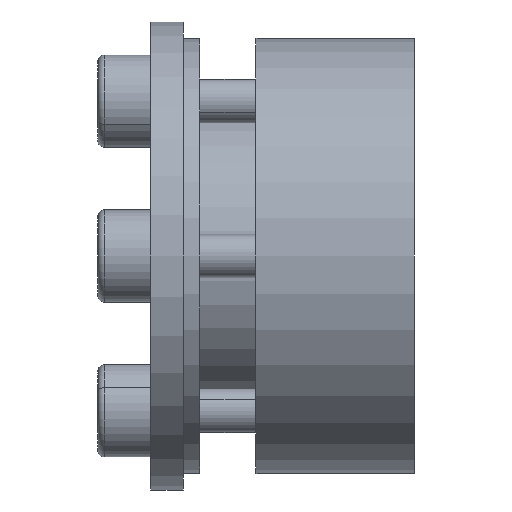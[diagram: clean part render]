
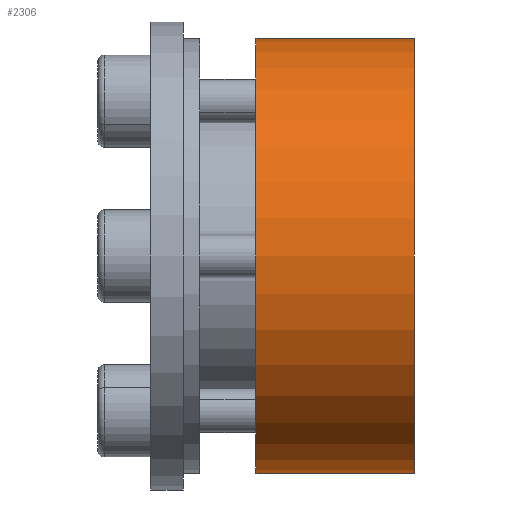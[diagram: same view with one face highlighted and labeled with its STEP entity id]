
A CAD part, front view. The second image highlights one B-rep face of the part: STEP entity #2306.
In plain terms, the highlighted cylindrical face has radius 16.5 mm (diameter 33 mm), a partial arc.
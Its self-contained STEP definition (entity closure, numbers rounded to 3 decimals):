
#21 = CARTESIAN_POINT ( 'NONE',  ( 20., 0., 0. ) ) ;
#101 = DIRECTION ( 'NONE',  ( 0., 0., 1. ) ) ;
#102 = DIRECTION ( 'NONE',  ( -1., 0., 0. ) ) ;
#103 = AXIS2_PLACEMENT_3D ( 'NONE', #21, #102, #101 ) ;
#104 = CIRCLE ( 'NONE', #103, 16.5 ) ;
#1893 = DIRECTION ( 'NONE',  ( 0., 0., 1. ) ) ;
#1894 = DIRECTION ( 'NONE',  ( -1., 0., 0. ) ) ;
#1895 = CARTESIAN_POINT ( 'NONE',  ( 0., 0., 0. ) ) ;
#1896 = AXIS2_PLACEMENT_3D ( 'NONE', #1895, #1894, #1893 ) ;
#1898 = CYLINDRICAL_SURFACE ( 'NONE', #1896, 16.5 ) ;
#1899 = FACE_OUTER_BOUND ( 'NONE', #2012, .T. ) ;
#1900 = DIRECTION ( 'NONE',  ( 0., 0., 1. ) ) ;
#1901 = DIRECTION ( 'NONE',  ( -1., 0., 0. ) ) ;
#1902 = AXIS2_PLACEMENT_3D ( 'NONE', #1931, #1901, #1900 ) ;
#1903 = CIRCLE ( 'NONE', #1902, 16.5 ) ;
#1931 = CARTESIAN_POINT ( 'NONE',  ( 8., 0., 0. ) ) ;
#1955 = VERTEX_POINT ( 'NONE', #3465 ) ;
#1956 = VERTEX_POINT ( 'NONE', #3464 ) ;
#1958 = EDGE_CURVE ( 'NONE', #1956, #1959, #3463, .T. ) ;
#1959 = VERTEX_POINT ( 'NONE', #3459 ) ;
#2012 = EDGE_LOOP ( 'NONE', ( #2363, #2560, #2570, #2561 ) ) ;
#2122 = VERTEX_POINT ( 'NONE', #3812 ) ;
#2241 = EDGE_CURVE ( 'NONE', #1955, #2122, #3765, .T. ) ;
#2305 = EDGE_CURVE ( 'NONE', #1959, #2122, #1903, .T. ) ;
#2306 = ADVANCED_FACE ( 'NONE', ( #1899 ), #1898, .T. ) ;
#2363 = ORIENTED_EDGE ( 'NONE', *, *, #1958, .F. ) ;
#2378 = EDGE_CURVE ( 'NONE', #1956, #1955, #104, .T. ) ;
#2560 = ORIENTED_EDGE ( 'NONE', *, *, #2378, .T. ) ;
#2561 = ORIENTED_EDGE ( 'NONE', *, *, #2305, .F. ) ;
#2570 = ORIENTED_EDGE ( 'NONE', *, *, #2241, .T. ) ;
#3459 = CARTESIAN_POINT ( 'NONE',  ( 8., 0., -16.5 ) ) ;
#3460 = DIRECTION ( 'NONE',  ( -1., 0., 0. ) ) ;
#3461 = VECTOR ( 'NONE', #3460, 1000. ) ;
#3462 = CARTESIAN_POINT ( 'NONE',  ( 0., 0., -16.5 ) ) ;
#3463 = LINE ( 'NONE', #3462, #3461 ) ;
#3464 = CARTESIAN_POINT ( 'NONE',  ( 20., 0., -16.5 ) ) ;
#3465 = CARTESIAN_POINT ( 'NONE',  ( 20., 0., 16.5 ) ) ;
#3762 = DIRECTION ( 'NONE',  ( -1., 0., 0. ) ) ;
#3763 = VECTOR ( 'NONE', #3762, 1000. ) ;
#3764 = CARTESIAN_POINT ( 'NONE',  ( 0., 0., 16.5 ) ) ;
#3765 = LINE ( 'NONE', #3764, #3763 ) ;
#3812 = CARTESIAN_POINT ( 'NONE',  ( 8., 0., 16.5 ) ) ;
